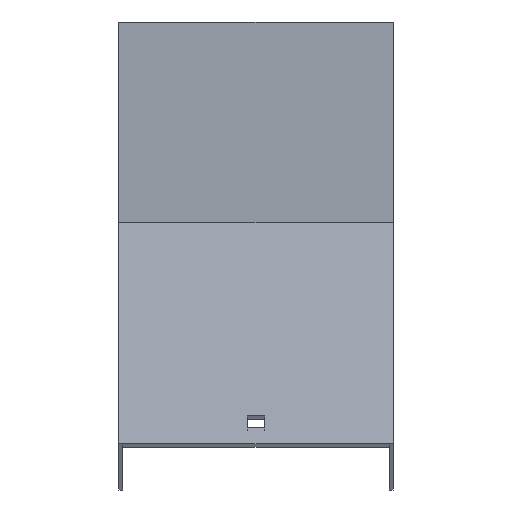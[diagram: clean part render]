
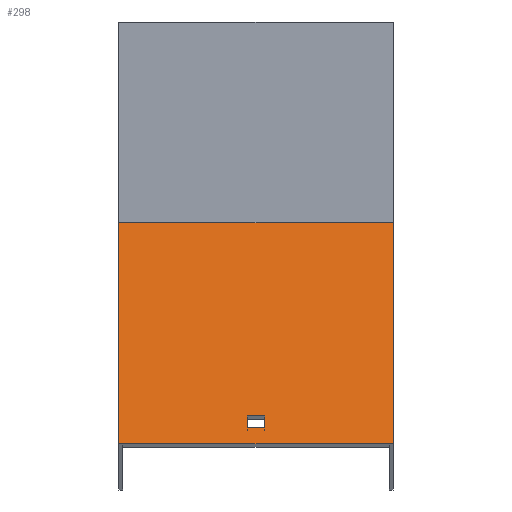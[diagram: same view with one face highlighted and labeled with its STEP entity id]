
A CAD part, top view. The second image highlights one B-rep face of the part: STEP entity #298.
In plain terms, the highlighted planar face has unit normal (0, 0.866, 0.5).
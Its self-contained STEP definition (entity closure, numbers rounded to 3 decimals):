
#9 = CARTESIAN_POINT ( 'NONE',  ( 51.5, -133.219, 583.822 ) ) ;
#25 = EDGE_CURVE ( 'NONE', #679, #348, #638, .T. ) ;
#31 = ORIENTED_EDGE ( 'NONE', *, *, #489, .T. ) ;
#33 = ORIENTED_EDGE ( 'NONE', *, *, #361, .T. ) ;
#46 = CARTESIAN_POINT ( 'NONE',  ( -3.25, -57.219, 452.187 ) ) ;
#50 = DIRECTION ( 'NONE',  ( -1., 0., 0. ) ) ;
#55 = PLANE ( 'NONE',  #384 ) ;
#64 = EDGE_LOOP ( 'NONE', ( #339, #484, #410, #277 ) ) ;
#102 = DIRECTION ( 'NONE',  ( 1., 0., 0. ) ) ;
#103 = VERTEX_POINT ( 'NONE', #851 ) ;
#108 = VECTOR ( 'NONE', #516, 1000. ) ;
#109 = VECTOR ( 'NONE', #114, 1000. ) ;
#114 = DIRECTION ( 'NONE',  ( 0., -0.5, 0.866 ) ) ;
#127 = DIRECTION ( 'NONE',  ( 0., -0.5, 0.866 ) ) ;
#128 = LINE ( 'NONE', #9, #475 ) ;
#135 = EDGE_CURVE ( 'NONE', #342, #693, #128, .T. ) ;
#139 = CARTESIAN_POINT ( 'NONE',  ( 51.5, -55.903, 449.906 ) ) ;
#170 = CARTESIAN_POINT ( 'NONE',  ( 51.5, -139.219, 594.215 ) ) ;
#171 = FACE_BOUND ( 'NONE', #609, .T. ) ;
#174 = EDGE_CURVE ( 'NONE', #482, #348, #587, .T. ) ;
#188 = VECTOR ( 'NONE', #302, 1000. ) ;
#195 = CARTESIAN_POINT ( 'NONE',  ( -51.5, -57.219, 452.187 ) ) ;
#198 = VERTEX_POINT ( 'NONE', #253 ) ;
#207 = ORIENTED_EDGE ( 'NONE', *, *, #135, .T. ) ;
#226 = DIRECTION ( 'NONE',  ( 0., 0.5, -0.866 ) ) ;
#228 = VECTOR ( 'NONE', #102, 1000. ) ;
#253 = CARTESIAN_POINT ( 'NONE',  ( 3.25, -128.719, 576.028 ) ) ;
#256 = VECTOR ( 'NONE', #50, 1000. ) ;
#258 = VERTEX_POINT ( 'NONE', #139 ) ;
#261 = DIRECTION ( 'NONE',  ( -1., 0., 0. ) ) ;
#273 = ORIENTED_EDGE ( 'NONE', *, *, #597, .T. ) ;
#277 = ORIENTED_EDGE ( 'NONE', *, *, #419, .T. ) ;
#298 = ADVANCED_FACE ( 'NONE', ( #171, #377 ), #55, .F. ) ;
#302 = DIRECTION ( 'NONE',  ( 0., 0.5, -0.866 ) ) ;
#339 = ORIENTED_EDGE ( 'NONE', *, *, #174, .T. ) ;
#342 = VERTEX_POINT ( 'NONE', #694 ) ;
#348 = VERTEX_POINT ( 'NONE', #360 ) ;
#360 = CARTESIAN_POINT ( 'NONE',  ( -51.5, -139.219, 594.215 ) ) ;
#361 = EDGE_CURVE ( 'NONE', #693, #103, #365, .T. ) ;
#365 = LINE ( 'NONE', #46, #188 ) ;
#377 = FACE_OUTER_BOUND ( 'NONE', #64, .T. ) ;
#384 = AXIS2_PLACEMENT_3D ( 'NONE', #500, #568, #226 ) ;
#398 = CARTESIAN_POINT ( 'NONE',  ( 51.5, -139.219, 594.215 ) ) ;
#410 = ORIENTED_EDGE ( 'NONE', *, *, #811, .F. ) ;
#419 = EDGE_CURVE ( 'NONE', #258, #482, #713, .T. ) ;
#449 = CARTESIAN_POINT ( 'NONE',  ( 51.5, -55.903, 449.906 ) ) ;
#475 = VECTOR ( 'NONE', #261, 1000. ) ;
#482 = VERTEX_POINT ( 'NONE', #517 ) ;
#484 = ORIENTED_EDGE ( 'NONE', *, *, #25, .F. ) ;
#485 = CARTESIAN_POINT ( 'NONE',  ( -3.25, -133.219, 583.822 ) ) ;
#489 = EDGE_CURVE ( 'NONE', #103, #198, #502, .T. ) ;
#500 = CARTESIAN_POINT ( 'NONE',  ( 51.5, -57.219, 452.187 ) ) ;
#502 = LINE ( 'NONE', #780, #228 ) ;
#516 = DIRECTION ( 'NONE',  ( 0., -0.5, 0.866 ) ) ;
#517 = CARTESIAN_POINT ( 'NONE',  ( -51.5, -55.903, 449.906 ) ) ;
#521 = LINE ( 'NONE', #782, #671 ) ;
#568 = DIRECTION ( 'NONE',  ( 0., -0.866, -0.5 ) ) ;
#587 = LINE ( 'NONE', #195, #108 ) ;
#597 = EDGE_CURVE ( 'NONE', #198, #342, #521, .T. ) ;
#609 = EDGE_LOOP ( 'NONE', ( #31, #273, #207, #33 ) ) ;
#616 = CARTESIAN_POINT ( 'NONE',  ( 51.5, -57.219, 452.187 ) ) ;
#638 = LINE ( 'NONE', #170, #256 ) ;
#641 = DIRECTION ( 'NONE',  ( -1., 0., 0. ) ) ;
#671 = VECTOR ( 'NONE', #127, 1000. ) ;
#679 = VERTEX_POINT ( 'NONE', #398 ) ;
#693 = VERTEX_POINT ( 'NONE', #485 ) ;
#694 = CARTESIAN_POINT ( 'NONE',  ( 3.25, -133.219, 583.822 ) ) ;
#713 = LINE ( 'NONE', #449, #795 ) ;
#751 = LINE ( 'NONE', #616, #109 ) ;
#780 = CARTESIAN_POINT ( 'NONE',  ( 51.5, -128.719, 576.028 ) ) ;
#782 = CARTESIAN_POINT ( 'NONE',  ( 3.25, -57.219, 452.187 ) ) ;
#795 = VECTOR ( 'NONE', #641, 1000. ) ;
#811 = EDGE_CURVE ( 'NONE', #258, #679, #751, .T. ) ;
#851 = CARTESIAN_POINT ( 'NONE',  ( -3.25, -128.719, 576.028 ) ) ;
